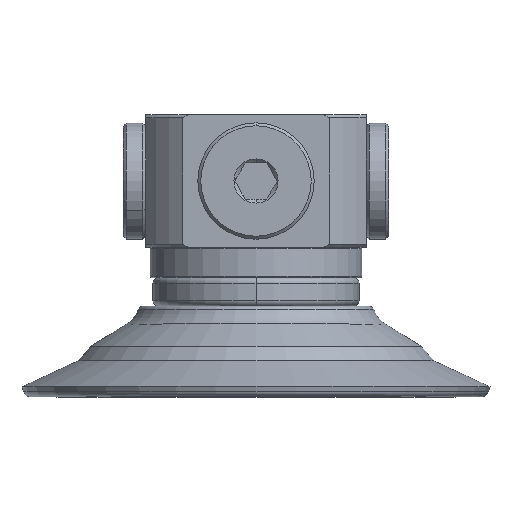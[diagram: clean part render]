
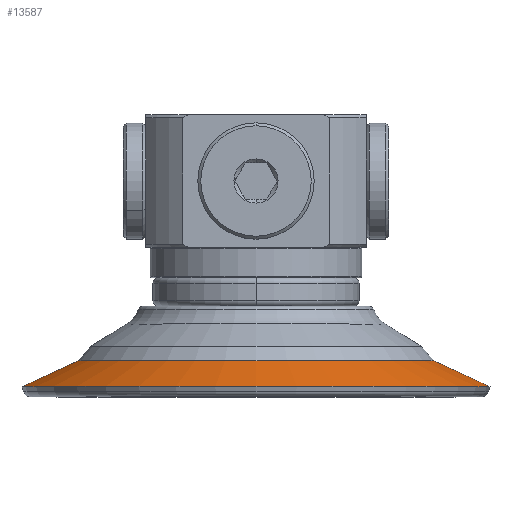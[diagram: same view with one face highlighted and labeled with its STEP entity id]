
A CAD part, top view. The second image highlights one B-rep face of the part: STEP entity #13587.
In plain terms, the highlighted conical face has half-angle 65.236 degrees and reference radius 12.114 mm.
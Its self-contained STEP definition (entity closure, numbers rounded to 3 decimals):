
#573 = DIRECTION ( 'NONE',  ( 0.908, -0.419, 0. ) ) ;
#665 = CARTESIAN_POINT ( 'NONE',  ( -12.114, -7.835, 0. ) ) ;
#1703 = EDGE_CURVE ( 'NONE', #6350, #2839, #4917, .T. ) ;
#2061 = EDGE_CURVE ( 'NONE', #2839, #10066, #12834, .T. ) ;
#2839 = VERTEX_POINT ( 'NONE', #11632 ) ;
#3074 = EDGE_CURVE ( 'NONE', #6350, #10371, #9749, .T. ) ;
#3722 = CARTESIAN_POINT ( 'NONE',  ( 0., -7.835, 0. ) ) ;
#4138 = DIRECTION ( 'NONE',  ( -0.908, -0.419, 0. ) ) ;
#4891 = DIRECTION ( 'NONE',  ( 0., -1., 0. ) ) ;
#4917 = CIRCLE ( 'NONE', #7248, 12.114 ) ;
#5800 = AXIS2_PLACEMENT_3D ( 'NONE', #6345, #9099, #12210 ) ;
#5903 = FACE_OUTER_BOUND ( 'NONE', #7258, .T. ) ;
#6054 = AXIS2_PLACEMENT_3D ( 'NONE', #3722, #4891, #11718 ) ;
#6345 = CARTESIAN_POINT ( 'NONE',  ( 0., -9.579, 0. ) ) ;
#6350 = VERTEX_POINT ( 'NONE', #12212 ) ;
#6585 = CARTESIAN_POINT ( 'NONE',  ( 0., -7.835, 0. ) ) ;
#7110 = VECTOR ( 'NONE', #4138, 1000. ) ;
#7248 = AXIS2_PLACEMENT_3D ( 'NONE', #6585, #12232, #11016 ) ;
#7257 = VECTOR ( 'NONE', #573, 1000. ) ;
#7258 = EDGE_LOOP ( 'NONE', ( #14101, #11300, #9623, #8900 ) ) ;
#7362 = CARTESIAN_POINT ( 'NONE',  ( 15.894, -9.579, 0. ) ) ;
#8900 = ORIENTED_EDGE ( 'NONE', *, *, #2061, .F. ) ;
#9099 = DIRECTION ( 'NONE',  ( 0., 1., 0. ) ) ;
#9623 = ORIENTED_EDGE ( 'NONE', *, *, #10323, .T. ) ;
#9749 = LINE ( 'NONE', #665, #7110 ) ;
#10066 = VERTEX_POINT ( 'NONE', #7362 ) ;
#10323 = EDGE_CURVE ( 'NONE', #10371, #10066, #11607, .T. ) ;
#10371 = VERTEX_POINT ( 'NONE', #13508 ) ;
#10525 = CARTESIAN_POINT ( 'NONE',  ( 12.114, -7.835, 0. ) ) ;
#11016 = DIRECTION ( 'NONE',  ( -1., 0., 0. ) ) ;
#11300 = ORIENTED_EDGE ( 'NONE', *, *, #3074, .T. ) ;
#11607 = CIRCLE ( 'NONE', #5800, 15.894 ) ;
#11632 = CARTESIAN_POINT ( 'NONE',  ( 12.114, -7.835, 0. ) ) ;
#11718 = DIRECTION ( 'NONE',  ( 1., 0., 0. ) ) ;
#12210 = DIRECTION ( 'NONE',  ( -1., 0., 0. ) ) ;
#12212 = CARTESIAN_POINT ( 'NONE',  ( -12.114, -7.835, 0. ) ) ;
#12232 = DIRECTION ( 'NONE',  ( 0., 1., 0. ) ) ;
#12305 = CONICAL_SURFACE ( 'NONE', #6054, 12.114, 1.139 ) ;
#12834 = LINE ( 'NONE', #10525, #7257 ) ;
#13508 = CARTESIAN_POINT ( 'NONE',  ( -15.894, -9.579, 0. ) ) ;
#13587 = ADVANCED_FACE ( 'NONE', ( #5903 ), #12305, .T. ) ;
#14101 = ORIENTED_EDGE ( 'NONE', *, *, #1703, .F. ) ;
